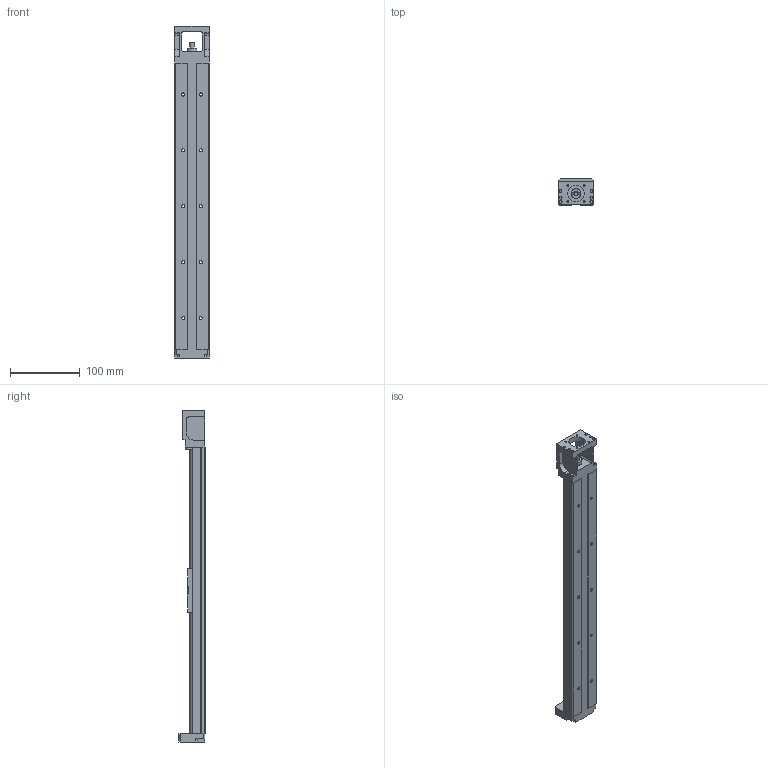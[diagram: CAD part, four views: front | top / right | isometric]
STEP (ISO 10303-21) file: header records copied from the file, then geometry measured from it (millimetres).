
FILE_DESCRIPTION (( 'STEP AP203' ), '1' );
FILE_NAME ('GSX50-300-LL1210-P7.STEP', '2013-11-02T01:43:15', ( '微软用户' ), ( '微软中国' ), 'SwSTEP 2.0', 'SolidWorks 2010', '' );
FILE_SCHEMA (( 'CONFIG_CONTROL_DESIGN' ));
Length unit declared in the file: millimetre
Products named in the file (1): GSX50-300-LL1210-P7
Bounding box: 50 x 38 x 475 mm (x, y, z)
Volume: 316723.3 mm3; surface area: 107911.8 mm2
Topology: 1 solids, 1 shells, 329 faces, 859 edges, 542 vertices
Faces by surface type: cylinder 163, plane 130, cone 36
Entity records: 10134 total; most frequent: DIRECTION 1811, CARTESIAN_POINT 1751, ORIENTED_EDGE 1654, EDGE_CURVE 827, AXIS2_PLACEMENT_3D 666, VERTEX_POINT 542, VECTOR 479, LINE 479
